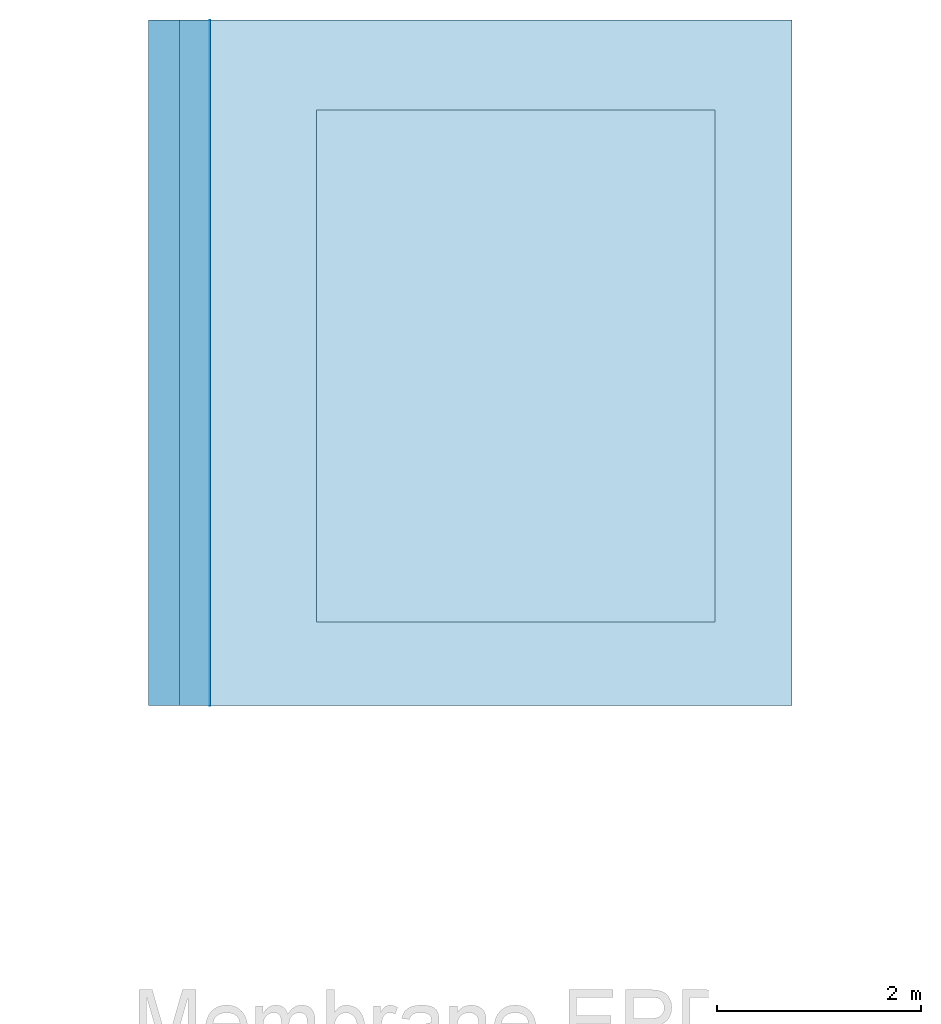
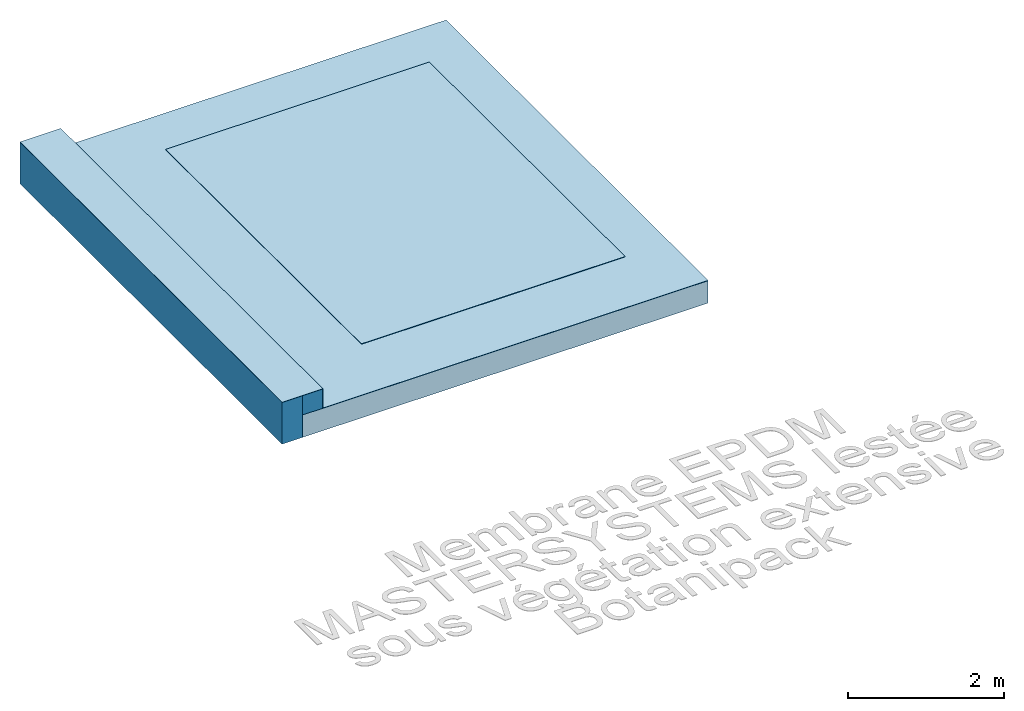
# One storey, incomplete: 4 slabs, 3 walls, 4 elements without a shape of their own.
"""IFC2X3 building model written with IfcOpenShell, lengths in millimetres."""

from ifc_helpers import new_model, entity, si_unit, converted_unit, derived_unit, direction, frame, frame_2d, origin, place, context, subcontext, project, spatial, polyline, rectangle, extrude, clip, bounded_halfspace, material, layer, layer_set, layer_usage, type_object, element, aggregate, save


model = new_model("IFC2X3")

# Units and contexts
model_context = context("Model", 3, precision=0.01, world=origin(), true_north=direction((6.12303176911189e-17, 1.0)))
body_context = subcontext(model_context, "Body", "Model", "MODEL_VIEW")
ifc_project = project(units=[si_unit("LENGTHUNIT", "METRE", prefix="MILLI"), si_unit("AREAUNIT", "SQUARE_METRE"), si_unit("VOLUMEUNIT", "CUBIC_METRE"), converted_unit("PLANEANGLEUNIT", "DEGREE", entity("IfcRatioMeasure", 0.0174532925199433), si_unit("PLANEANGLEUNIT", "RADIAN"), dimensions=[0, 0, 0, 0, 0, 0, 0]), si_unit("MASSUNIT", "GRAM", prefix="KILO"), derived_unit("MASSDENSITYUNIT", [(si_unit("MASSUNIT", "GRAM", prefix="KILO"), 1), (si_unit("LENGTHUNIT", "METRE"), -3)]), derived_unit("MOMENTOFINERTIAUNIT", [(si_unit("LENGTHUNIT", "METRE"), 4)]), si_unit("TIMEUNIT", "SECOND"), si_unit("FREQUENCYUNIT", "HERTZ"), si_unit("THERMODYNAMICTEMPERATUREUNIT", "DEGREE_CELSIUS"), derived_unit("THERMALTRANSMITTANCEUNIT", [(si_unit("MASSUNIT", "GRAM", prefix="KILO"), 1), (si_unit("THERMODYNAMICTEMPERATUREUNIT", "KELVIN"), -1), (si_unit("TIMEUNIT", "SECOND"), -3)]), derived_unit("VOLUMETRICFLOWRATEUNIT", [(si_unit("LENGTHUNIT", "METRE"), 3), (si_unit("TIMEUNIT", "SECOND"), -1)]), si_unit("ELECTRICCURRENTUNIT", "AMPERE"), si_unit("ELECTRICVOLTAGEUNIT", "VOLT"), si_unit("POWERUNIT", "WATT"), si_unit("FORCEUNIT", "NEWTON", prefix="KILO"), si_unit("ILLUMINANCEUNIT", "LUX"), si_unit("LUMINOUSFLUXUNIT", "LUMEN"), si_unit("LUMINOUSINTENSITYUNIT", "CANDELA"), derived_unit("USERDEFINED", [(si_unit("MASSUNIT", "GRAM", prefix="KILO"), -1), (si_unit("LENGTHUNIT", "METRE"), -2), (si_unit("TIMEUNIT", "SECOND"), 3), (si_unit("LUMINOUSFLUXUNIT", "LUMEN"), 1)]), derived_unit("LINEARVELOCITYUNIT", [(si_unit("LENGTHUNIT", "METRE"), 1), (si_unit("TIMEUNIT", "SECOND"), -1)]), si_unit("PRESSUREUNIT", "PASCAL"), derived_unit("USERDEFINED", [(si_unit("LENGTHUNIT", "METRE"), -2), (si_unit("MASSUNIT", "GRAM", prefix="KILO"), 1), (si_unit("TIMEUNIT", "SECOND"), -2)]), derived_unit("LINEARFORCEUNIT", [(si_unit("MASSUNIT", "GRAM", prefix="KILO"), 1), (si_unit("LENGTHUNIT", "METRE"), 1), (si_unit("TIMEUNIT", "SECOND"), -2), (si_unit("LENGTHUNIT", "METRE"), -1)]), derived_unit("PLANARFORCEUNIT", [(si_unit("MASSUNIT", "GRAM", prefix="KILO"), 1), (si_unit("LENGTHUNIT", "METRE"), 1), (si_unit("TIMEUNIT", "SECOND"), -2), (si_unit("LENGTHUNIT", "METRE"), -2)])], contexts=[model_context])

# Site, building, storey
site_placement = place(None, origin())
site = spatial("IfcSite", under=ifc_project, at=site_placement, Name="Default", CompositionType="ELEMENT")
building_placement = place(site_placement, origin())
building = spatial("IfcBuilding", under=site, at=building_placement, CompositionType="ELEMENT")
storey_placement = place(building_placement, origin())
storey = spatial("IfcBuildingStorey", under=building, at=storey_placement, Name="Niveau 1", CompositionType="ELEMENT", Elevation=0.0)

# Roof, slab
roof_1_placement = place(storey_placement, frame((39592.1860757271, 21211.4879507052, 0.0)))
roof_1 = element("IfcRoof", 1, at=roof_1_placement, inside=storey, Name="Toit de base:Membrane MASTERSYSTEMS EPDM lestée avec végétation extensive", ObjectType="Toit de base:Membrane MASTERSYSTEMS EPDM lestée avec végétation extensive", ShapeType="NOTDEFINED")
ifc_material_1 = material(Name="Film de protection polyester")
ifc_layer_1 = layer(ifc_material_1, 0.8)
ifc_material_2 = material(Name="Membrane MASTERSYSTEMS EPDM lestée avec végétation extensive")
ifc_layer_2 = layer(ifc_material_2, 2.2)
ifc_layer_set_1 = layer_set([ifc_layer_1, ifc_layer_2], Name="Toit de base:Membrane MASTERSYSTEMS EPDM lestée avec végétation extensive")
slab_type_1 = type_object("IfcSlabType", Name="Toit de base:Membrane MASTERSYSTEMS EPDM lestée avec végétation extensive", PredefinedType="ROOF")
slab_1_placement = place(roof_1_placement, origin())
slab_1 = element("IfcSlab", 2, at=slab_1_placement, type_object=slab_type_1, material=ifc_layer_set_1, Name="Toit de base:Membrane MASTERSYSTEMS EPDM lestée avec végétation extensive", ObjectType="Toit de base:Membrane MASTERSYSTEMS EPDM lestée avec végétation extensive", PredefinedType="ROOF", context=body_context, shape_type="SweptSolid", body=[
    extrude(rectangle(XDim=6714.46153846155, YDim=5699.99999999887, at=frame_2d((4.32009983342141e-12, 0.0), x_axis=(0.0, 1.0))), frame((2850.0, 3357.23076923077, 0.0)), (0.0, 0.0, 1.0), 3.0),
])
aggregate(roof_1, [slab_1])

roof_2_placement = place(storey_placement, frame((39292.1860757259, 21211.4879507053, -350.8)))
roof_2 = element("IfcRoof", 3, at=roof_2_placement, inside=storey, Name="Toit de base:Toit 1", ObjectType="Toit de base:Toit 1", ShapeType="NOTDEFINED")
ifc_material_3 = material(Name="Isolation")
ifc_layer_3 = layer(ifc_material_3, 100.0)
ifc_material_4 = material(Name="Pare vapeur")
ifc_layer_4 = layer(ifc_material_4, 0.8)
ifc_material_5 = material(Name="Béton de pente")
ifc_layer_5 = layer(ifc_material_5, 50.0)
ifc_material_6 = material(Name="Structure porteuse")
ifc_layer_6 = layer(ifc_material_6, 200.0)
ifc_layer_set_2 = layer_set([ifc_layer_3, ifc_layer_4, ifc_layer_5, ifc_layer_6], Name="Toit de base:Toit 1")
slab_type_2 = type_object("IfcSlabType", Name="Toit de base:Toit 1", PredefinedType="ROOF")
slab_2_placement = place(roof_2_placement, origin())
slab_2 = element("IfcSlab", 4, at=slab_2_placement, type_object=slab_type_2, material=ifc_layer_set_2, Name="Toit de base:Toit 1", ObjectType="Toit de base:Toit 1", PredefinedType="ROOF", context=body_context, shape_type="SweptSolid", body=[
    extrude(rectangle(XDim=6000.0, YDim=6714.46153846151, at=frame_2d((4.32009983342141e-12, 2.27373675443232e-12), x_axis=(1.0, 0.0))), frame((3000.0, 3357.23076923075, 0.0)), (0.0, 0.0, 1.0), 350.8),
])
aggregate(roof_2, [slab_2])

roof_3_placement = place(storey_placement, frame((38992.1860757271, 21211.4879507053, 300.0)))
roof_3 = element("IfcRoof", 5, at=roof_3_placement, inside=storey, Name="Toit de base:Membrane MASTERSYSTEMS EPDM collée-Relevés et acrotères", ObjectType="Toit de base:Membrane MASTERSYSTEMS EPDM collée-Relevés et acrotères", ShapeType="NOTDEFINED")
ifc_material_7 = material(Name="Membrane EPDM caoutchouc MASTERSYSTEMS collée-Relevés et acrotères")
ifc_layer_7 = layer(ifc_material_7, 2.2)
ifc_material_8 = material(Name="Colle MASTERCONTACT PX300")
ifc_layer_8 = layer(ifc_material_8, 1.1)
ifc_layer_set_3 = layer_set([ifc_layer_7, ifc_layer_8], Name="Toit de base:Membrane MASTERSYSTEMS EPDM collée-Relevés et acrotères")
slab_type_3 = type_object("IfcSlabType", Name="Toit de base:Membrane MASTERSYSTEMS EPDM collée-Relevés et acrotères", PredefinedType="ROOF")
slab_3_placement = place(roof_3_placement, origin())
slab_3 = element("IfcSlab", 6, at=slab_3_placement, type_object=slab_type_3, material=ifc_layer_set_3, Name="Toit de base:Membrane MASTERSYSTEMS EPDM collée-Relevés et acrotères", ObjectType="Toit de base:Membrane MASTERSYSTEMS EPDM collée-Relevés et acrotères", PredefinedType="ROOF", context=body_context, shape_type="SweptSolid", body=[
    extrude(rectangle(XDim=6714.46153846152, YDim=603.299999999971, at=frame_2d((2.18847162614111e-12, 0.0), x_axis=(0.0, 1.0))), frame((301.649999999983, 3357.23076923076, 0.0)), (0.0, 0.0, 1.0), 3.29999999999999),
])
aggregate(roof_3, [slab_3])

roof_4_placement = place(storey_placement, frame((40636.9466360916, 22030.4485727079, 138.3)))
roof_4 = element("IfcRoof", 7, at=roof_4_placement, inside=storey, Name="Toit de base:Végétation_Botanipack", ObjectType="Toit de base:Végétation_Botanipack", ShapeType="NOTDEFINED")
ifc_material_9 = material(Name="Végétation extensive_Botanipack")
ifc_layer_9 = layer(ifc_material_9, 6.5)
ifc_layer_set_4 = layer_set([ifc_layer_9], Name="Toit de base:Végétation_Botanipack")
slab_type_4 = type_object("IfcSlabType", Name="Toit de base:Végétation_Botanipack", PredefinedType="ROOF")
slab_4_placement = place(roof_4_placement, origin())
slab_4 = element("IfcSlab", 8, at=slab_4_placement, type_object=slab_type_4, material=ifc_layer_set_4, Name="Toit de base:Végétation_Botanipack", ObjectType="Toit de base:Végétation_Botanipack", PredefinedType="ROOF", context=body_context, shape_type="SweptSolid", body=[
    extrude(rectangle(XDim=5015.46153846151, YDim=3900.0, at=frame_2d((0.0, 0.0), x_axis=(0.0, 1.0))), frame((1950.0, 2507.73076923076, 0.0)), (0.0, 0.0, 1.0), 6.49999999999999),
])
aggregate(roof_4, [slab_4])

# Walls
ifc_layer_10 = layer(ifc_material_3, 100.0)
ifc_material_10 = material(Name="Maçonnerie ascendante")
ifc_layer_11 = layer(ifc_material_10, 200.0)
ifc_layer_set_5 = layer_set([ifc_layer_10, ifc_layer_11], Name="Mur de base:Mur 1")
ifc_layer_usage_1 = layer_usage(ifc_layer_set_5, "AXIS2", "NEGATIVE", 150.0)
wall_type_1 = type_object("IfcWallType", Name="Mur de base:Mur 1", PredefinedType="STANDARD", material=ifc_layer_set_5)
wall_1_placement = place(storey_placement, frame((39142.1860757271, 27925.9494891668, -350.8), z_axis=(0.0, 0.0, 1.0), x_axis=(0.0, -1.0, 0.0)))
element("IfcWallStandardCase", 9, at=wall_1_placement, inside=storey, type_object=wall_type_1, material=ifc_layer_usage_1, Name="Mur de base:Mur 1", ObjectType="Mur de base:Mur 1", context=body_context, shape_type="Clipping", body=[
    clip(extrude(rectangle(XDim=6714.46153846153, YDim=300.000000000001, at=frame_2d((3357.23076923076, -3.79429820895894e-12), x_axis=(-1.0, 0.0))), origin(), (0.0, 0.0, 1.0), 650.8), bounded_halfspace(frame((0.0, -150.0, 650.8), z_axis=(0.0, 0.0, 1.0), x_axis=(0.0, 1.0, 0.0)), False, frame((0.0, -150.0, 650.8)), polyline([(0.0, 0.0), (6714.46153846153, 0.0), (6714.46153846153, 300.0), (0.0, 300.0), (0.0, 0.0)]))),
])
ifc_layer_usage_2 = layer_usage(ifc_layer_set_5, "AXIS2", "NEGATIVE", 150.0)
wall_2_placement = place(storey_placement, frame((39442.1860757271, 27925.9494891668, 0.0), z_axis=(0.0, 0.0, 1.0), x_axis=(0.0, -1.0, 0.0)))
element("IfcWallStandardCase", 10, at=wall_2_placement, inside=storey, type_object=wall_type_1, material=ifc_layer_usage_2, Name="Mur de base:Mur 1", ObjectType="Mur de base:Mur 1", context=body_context, shape_type="Clipping", body=[
    clip(extrude(rectangle(XDim=6714.46153846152, YDim=300.000000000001, at=frame_2d((3357.23076923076, -1.62003743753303e-12), x_axis=(-1.0, 0.0))), origin(), (0.0, 0.0, 1.0), 300.0), bounded_halfspace(frame((0.0, -150.0, 300.0), z_axis=(0.0, 0.0, 1.0), x_axis=(0.0, 1.0, 0.0)), False, frame((0.0, -150.0, 300.0)), polyline([(0.0, 0.0), (6714.46153846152, 0.0), (6714.46153846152, 300.0), (0.0, 300.0), (0.0, 0.0)]))),
])
ifc_layer_12 = layer(ifc_material_7, 2.2)
ifc_layer_13 = layer(ifc_material_8, 1.1)
ifc_layer_set_6 = layer_set([ifc_layer_12, ifc_layer_13], Name="Mur de base:Membrane MASTERSYSTEMS EPDM collée-Relevés et acrotères")
ifc_layer_usage_3 = layer_usage(ifc_layer_set_6, "AXIS2", "NEGATIVE", 1.65)
wall_type_2 = type_object("IfcWallType", Name="Mur de base:Membrane MASTERSYSTEMS EPDM collée-Relevés et acrotères", PredefinedType="STANDARD", material=ifc_layer_set_6)
wall_3_placement = place(storey_placement, frame((39593.8360757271, 21211.4879507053, 3.0), z_axis=(0.0, 0.0, 1.0), x_axis=(0.0, 1.0, 0.0)))
element("IfcWallStandardCase", 11, at=wall_3_placement, inside=storey, type_object=wall_type_2, material=ifc_layer_usage_3, Name="Mur de base:Membrane MASTERSYSTEMS EPDM collée-Relevés et acrotères", ObjectType="Mur de base:Membrane MASTERSYSTEMS EPDM collée-Relevés et acrotères", context=body_context, shape_type="Clipping", body=[
    clip(extrude(rectangle(XDim=6714.46153846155, YDim=3.30000000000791, at=frame_2d((3357.23076923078, 2.55806487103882e-12), x_axis=(-1.0, 0.0))), origin(), (0.0, 0.0, 1.0), 297.0), bounded_halfspace(frame((0.0, -1.64999999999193, 297.0), z_axis=(0.0, 0.0, 1.0), x_axis=(0.0, -1.0, 0.0)), False, frame((0.0, -1.64999999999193, 297.0)), polyline([(0.0, 0.0), (6714.46153846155, 0.0), (6714.46153846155, 3.2999999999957), (0.0, 3.29999999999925), (0.0, 0.0)]))),
])

save(model, "model.ifc")
